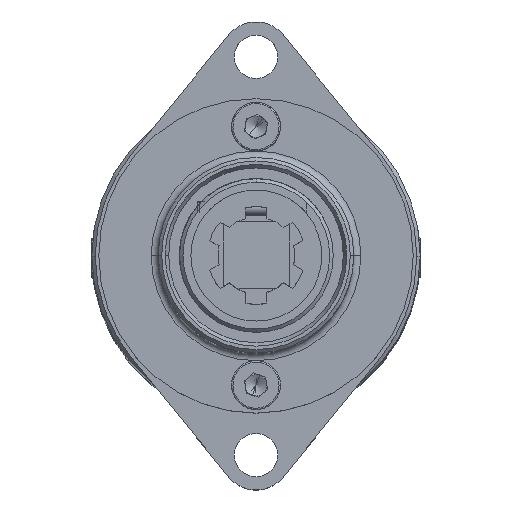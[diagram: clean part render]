
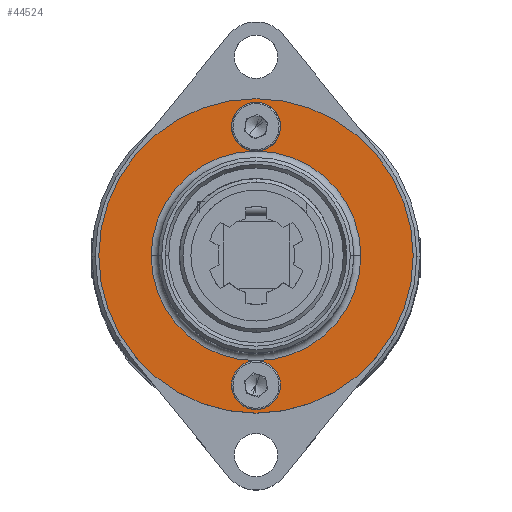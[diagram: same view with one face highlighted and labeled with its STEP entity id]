
A CAD part, top view. The second image highlights one B-rep face of the part: STEP entity #44524.
In plain terms, the highlighted planar face has unit normal (0, 0, 1).
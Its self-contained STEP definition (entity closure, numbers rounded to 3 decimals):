
#185 = ORIENTED_EDGE ( 'NONE', *, *, #11962, .T. ) ;
#572 = CARTESIAN_POINT ( 'NONE',  ( 0.65, -15., 17.4 ) ) ;
#1396 = DIRECTION ( 'NONE',  ( 0., 0., 1. ) ) ;
#3437 = DIRECTION ( 'NONE',  ( 0., 0., 1. ) ) ;
#3687 = CIRCLE ( 'NONE', #6127, 3.5 ) ;
#4281 = ORIENTED_EDGE ( 'NONE', *, *, #4735, .F. ) ;
#4735 = EDGE_CURVE ( 'NONE', #47719, #11545, #3687, .T. ) ;
#5004 = VERTEX_POINT ( 'NONE', #38124 ) ;
#5290 = EDGE_CURVE ( 'NONE', #44357, #33479, #26096, .T. ) ;
#5426 = DIRECTION ( 'NONE',  ( 1., 0., 0. ) ) ;
#5460 = DIRECTION ( 'NONE',  ( 1., 0., 0. ) ) ;
#5973 = AXIS2_PLACEMENT_3D ( 'NONE', #33191, #28354, #23507 ) ;
#6127 = AXIS2_PLACEMENT_3D ( 'NONE', #31273, #45400, #37437 ) ;
#6195 = ORIENTED_EDGE ( 'NONE', *, *, #16054, .T. ) ;
#6797 = CARTESIAN_POINT ( 'NONE',  ( -21.85, 0., 17.4 ) ) ;
#7413 = AXIS2_PLACEMENT_3D ( 'NONE', #34811, #10369, #5460 ) ;
#8407 = EDGE_LOOP ( 'NONE', ( #31855, #31112, #10836, #36254, #19266, #25800, #32247, #14901, #4281, #33164 ) ) ;
#8960 = CARTESIAN_POINT ( 'NONE',  ( -2.85, 18.5, 17.4 ) ) ;
#9197 = EDGE_LOOP ( 'NONE', ( #6195, #185 ) ) ;
#9206 = DIRECTION ( 'NONE',  ( 1., 0., 0. ) ) ;
#9253 = CIRCLE ( 'NONE', #46707, 15. ) ;
#9812 = EDGE_CURVE ( 'NONE', #40338, #44357, #9253, .T. ) ;
#10330 = DIRECTION ( 'NONE',  ( 0., 0., -1. ) ) ;
#10369 = DIRECTION ( 'NONE',  ( 0., 0., 1. ) ) ;
#10836 = ORIENTED_EDGE ( 'NONE', *, *, #9812, .T. ) ;
#11274 = CARTESIAN_POINT ( 'NONE',  ( 0.65, 18.5, 17.4 ) ) ;
#11545 = VERTEX_POINT ( 'NONE', #572 ) ;
#11962 = EDGE_CURVE ( 'NONE', #34785, #44317, #21187, .T. ) ;
#13695 = FACE_BOUND ( 'NONE', #8407, .T. ) ;
#14092 = AXIS2_PLACEMENT_3D ( 'NONE', #30138, #25298, #20456 ) ;
#14143 = DIRECTION ( 'NONE',  ( 0., 0., 1. ) ) ;
#14901 = ORIENTED_EDGE ( 'NONE', *, *, #16162, .T. ) ;
#14911 = CARTESIAN_POINT ( 'NONE',  ( -2.85, -18.5, 17.4 ) ) ;
#15179 = AXIS2_PLACEMENT_3D ( 'NONE', #35959, #31092, #26245 ) ;
#15256 = CARTESIAN_POINT ( 'NONE',  ( 0.65, 0., 17.4 ) ) ;
#16054 = EDGE_CURVE ( 'NONE', #44317, #34785, #18943, .T. ) ;
#16162 = EDGE_CURVE ( 'NONE', #33479, #11545, #22713, .T. ) ;
#16337 = CIRCLE ( 'NONE', #15179, 3.5 ) ;
#18943 = CIRCLE ( 'NONE', #33605, 22.5 ) ;
#19089 = CARTESIAN_POINT ( 'NONE',  ( 0.65, 0., 17.4 ) ) ;
#19266 = ORIENTED_EDGE ( 'NONE', *, *, #23927, .F. ) ;
#20456 = DIRECTION ( 'NONE',  ( 1., 0., 0. ) ) ;
#20513 = VERTEX_POINT ( 'NONE', #8960 ) ;
#21187 = CIRCLE ( 'NONE', #38191, 22.5 ) ;
#22246 = CARTESIAN_POINT ( 'NONE',  ( 23.15, 0., 17.4 ) ) ;
#22318 = CARTESIAN_POINT ( 'NONE',  ( 15.65, 0., 17.4 ) ) ;
#22389 = AXIS2_PLACEMENT_3D ( 'NONE', #15256, #10330, #5426 ) ;
#22713 = CIRCLE ( 'NONE', #22389, 15. ) ;
#23086 = EDGE_CURVE ( 'NONE', #20513, #44357, #16337, .T. ) ;
#23507 = DIRECTION ( 'NONE',  ( 1., 0., 0. ) ) ;
#23541 = EDGE_CURVE ( 'NONE', #37465, #47719, #38504, .T. ) ;
#23927 = EDGE_CURVE ( 'NONE', #5004, #20513, #35070, .T. ) ;
#25298 = DIRECTION ( 'NONE',  ( 0., 0., -1. ) ) ;
#25800 = ORIENTED_EDGE ( 'NONE', *, *, #40490, .F. ) ;
#25922 = CIRCLE ( 'NONE', #14092, 15. ) ;
#26096 = CIRCLE ( 'NONE', #29287, 15. ) ;
#26245 = DIRECTION ( 'NONE',  ( 1., 0., 0. ) ) ;
#28163 = CIRCLE ( 'NONE', #5973, 3.5 ) ;
#28354 = DIRECTION ( 'NONE',  ( 0., 0., 1. ) ) ;
#28619 = EDGE_CURVE ( 'NONE', #11545, #40338, #25922, .T. ) ;
#29287 = AXIS2_PLACEMENT_3D ( 'NONE', #42996, #42987, #42950 ) ;
#30138 = CARTESIAN_POINT ( 'NONE',  ( 0.65, 0., 17.4 ) ) ;
#30348 = DIRECTION ( 'NONE',  ( 1., 0., 0. ) ) ;
#30394 = CARTESIAN_POINT ( 'NONE',  ( 0.65, 15., 17.4 ) ) ;
#30417 = CIRCLE ( 'NONE', #7413, 3.5 ) ;
#30856 = AXIS2_PLACEMENT_3D ( 'NONE', #42579, #37748, #32897 ) ;
#31092 = DIRECTION ( 'NONE',  ( 0., 0., 1. ) ) ;
#31112 = ORIENTED_EDGE ( 'NONE', *, *, #28619, .T. ) ;
#31273 = CARTESIAN_POINT ( 'NONE',  ( 0.65, -18.5, 17.4 ) ) ;
#31855 = ORIENTED_EDGE ( 'NONE', *, *, #34360, .F. ) ;
#32247 = ORIENTED_EDGE ( 'NONE', *, *, #5290, .T. ) ;
#32897 = DIRECTION ( 'NONE',  ( 1., 0., 0. ) ) ;
#33164 = ORIENTED_EDGE ( 'NONE', *, *, #23541, .F. ) ;
#33191 = CARTESIAN_POINT ( 'NONE',  ( 0.65, -18.5, 17.4 ) ) ;
#33479 = VERTEX_POINT ( 'NONE', #22318 ) ;
#33605 = AXIS2_PLACEMENT_3D ( 'NONE', #42508, #3437, #46307 ) ;
#34247 = AXIS2_PLACEMENT_3D ( 'NONE', #11274, #1396, #44256 ) ;
#34360 = EDGE_CURVE ( 'NONE', #11545, #37465, #28163, .T. ) ;
#34585 = CARTESIAN_POINT ( 'NONE',  ( 0.65, 0., 17.4 ) ) ;
#34785 = VERTEX_POINT ( 'NONE', #22246 ) ;
#34811 = CARTESIAN_POINT ( 'NONE',  ( 0.65, 18.5, 17.4 ) ) ;
#35070 = CIRCLE ( 'NONE', #34247, 3.5 ) ;
#35223 = DIRECTION ( 'NONE',  ( 0., 0., 1. ) ) ;
#35959 = CARTESIAN_POINT ( 'NONE',  ( 0.65, 18.5, 17.4 ) ) ;
#36254 = ORIENTED_EDGE ( 'NONE', *, *, #23086, .F. ) ;
#37437 = DIRECTION ( 'NONE',  ( 1., 0., 0. ) ) ;
#37465 = VERTEX_POINT ( 'NONE', #14911 ) ;
#37748 = DIRECTION ( 'NONE',  ( 0., 0., 1. ) ) ;
#38124 = CARTESIAN_POINT ( 'NONE',  ( 4.15, 18.5, 17.4 ) ) ;
#38191 = AXIS2_PLACEMENT_3D ( 'NONE', #19089, #14143, #9206 ) ;
#38504 = CIRCLE ( 'NONE', #30856, 3.5 ) ;
#39457 = FACE_OUTER_BOUND ( 'NONE', #9197, .T. ) ;
#40012 = CARTESIAN_POINT ( 'NONE',  ( 0.65, 0., 17.4 ) ) ;
#40338 = VERTEX_POINT ( 'NONE', #44206 ) ;
#40490 = EDGE_CURVE ( 'NONE', #44357, #5004, #30417, .T. ) ;
#41876 = AXIS2_PLACEMENT_3D ( 'NONE', #40012, #35223, #30348 ) ;
#42508 = CARTESIAN_POINT ( 'NONE',  ( 0.65, 0., 17.4 ) ) ;
#42579 = CARTESIAN_POINT ( 'NONE',  ( 0.65, -18.5, 17.4 ) ) ;
#42950 = DIRECTION ( 'NONE',  ( 1., 0., 0. ) ) ;
#42987 = DIRECTION ( 'NONE',  ( 0., 0., -1. ) ) ;
#42996 = CARTESIAN_POINT ( 'NONE',  ( 0.65, 0., 17.4 ) ) ;
#44206 = CARTESIAN_POINT ( 'NONE',  ( -14.35, 0., 17.4 ) ) ;
#44221 = DIRECTION ( 'NONE',  ( 0., 0., -1. ) ) ;
#44256 = DIRECTION ( 'NONE',  ( 1., 0., 0. ) ) ;
#44317 = VERTEX_POINT ( 'NONE', #6797 ) ;
#44357 = VERTEX_POINT ( 'NONE', #30394 ) ;
#44524 = ADVANCED_FACE ( 'NONE', ( #13695, #39457 ), #44909, .T. ) ;
#44909 = PLANE ( 'NONE',  #41876 ) ;
#45400 = DIRECTION ( 'NONE',  ( 0., 0., 1. ) ) ;
#45966 = DIRECTION ( 'NONE',  ( 1., 0., 0. ) ) ;
#46307 = DIRECTION ( 'NONE',  ( 1., 0., 0. ) ) ;
#46707 = AXIS2_PLACEMENT_3D ( 'NONE', #34585, #44221, #45966 ) ;
#47050 = CARTESIAN_POINT ( 'NONE',  ( 4.15, -18.5, 17.4 ) ) ;
#47719 = VERTEX_POINT ( 'NONE', #47050 ) ;
